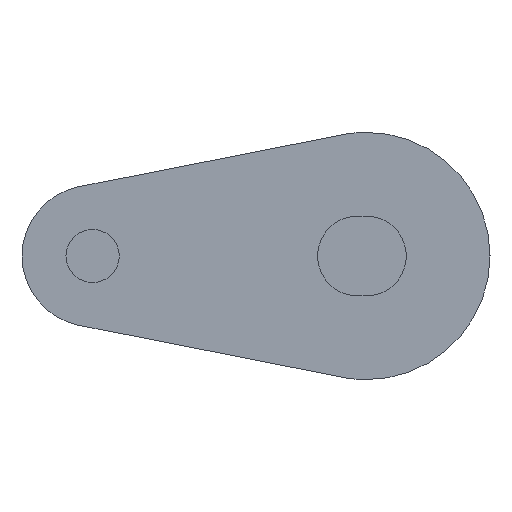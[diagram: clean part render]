
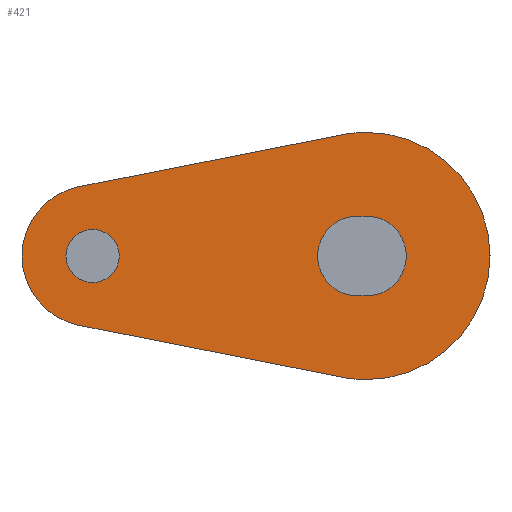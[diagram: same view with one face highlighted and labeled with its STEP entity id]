
A CAD part, left-side view. The second image highlights one B-rep face of the part: STEP entity #421.
In plain terms, the highlighted planar face has unit normal (-1, 0, 0).
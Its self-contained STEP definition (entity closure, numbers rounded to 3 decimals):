
#1 = VERTEX_POINT ( 'NONE', #95 ) ;
#7 = CARTESIAN_POINT ( 'NONE',  ( -529.5, 0., -7. ) ) ;
#12 = VERTEX_POINT ( 'NONE', #25 ) ;
#17 = CARTESIAN_POINT ( 'NONE',  ( -529.5, 0.5, 2.26 ) ) ;
#18 = CARTESIAN_POINT ( 'NONE',  ( -529.5, 0.5, -2.26 ) ) ;
#25 = CARTESIAN_POINT ( 'NONE',  ( -529.5, 1.355, -6.868 ) ) ;
#34 = VERTEX_POINT ( 'NONE', #53 ) ;
#53 = CARTESIAN_POINT ( 'NONE',  ( -529.5, 16.274, -3.924 ) ) ;
#55 = VERTEX_POINT ( 'NONE', #88 ) ;
#60 = VERTEX_POINT ( 'NONE', #83 ) ;
#72 = CARTESIAN_POINT ( 'NONE',  ( -529.5, 0., 7. ) ) ;
#76 = CARTESIAN_POINT ( 'NONE',  ( -529.5, 15.5, -1.51 ) ) ;
#83 = CARTESIAN_POINT ( 'NONE',  ( -529.5, 0., -2.26 ) ) ;
#88 = CARTESIAN_POINT ( 'NONE',  ( -529.5, 0., 2.26 ) ) ;
#89 = VERTEX_POINT ( 'NONE', #17 ) ;
#91 = VERTEX_POINT ( 'NONE', #18 ) ;
#92 = CARTESIAN_POINT ( 'NONE',  ( -529.5, 16.274, 3.924 ) ) ;
#95 = CARTESIAN_POINT ( 'NONE',  ( -529.5, 1.355, 6.868 ) ) ;
#96 = VERTEX_POINT ( 'NONE', #92 ) ;
#101 = VERTEX_POINT ( 'NONE', #7 ) ;
#105 = VERTEX_POINT ( 'NONE', #76 ) ;
#139 = VERTEX_POINT ( 'NONE', #72 ) ;
#141 = CARTESIAN_POINT ( 'NONE',  ( -529.5, 15.5, 1.51 ) ) ;
#146 = VERTEX_POINT ( 'NONE', #141 ) ;
#169 = PLANE ( 'NONE',  #1015 ) ;
#179 = CARTESIAN_POINT ( 'NONE',  ( -529.5, 15.5, 0. ) ) ;
#180 = DIRECTION ( 'NONE',  ( -1., 0., 0. ) ) ;
#181 = DIRECTION ( 'NONE',  ( 0., 0., -1. ) ) ;
#223 = CARTESIAN_POINT ( 'NONE',  ( -529.5, 15.5, 0. ) ) ;
#224 = DIRECTION ( 'NONE',  ( 1., 0., 0. ) ) ;
#225 = DIRECTION ( 'NONE',  ( 0., 0., -1. ) ) ;
#292 = DIRECTION ( 'NONE',  ( 1., 0., 0. ) ) ;
#293 = DIRECTION ( 'NONE',  ( 0., 0., -1. ) ) ;
#297 = CARTESIAN_POINT ( 'NONE',  ( -529.5, 0., 0. ) ) ;
#300 = DIRECTION ( 'NONE',  ( 1., 0., 0. ) ) ;
#301 = DIRECTION ( 'NONE',  ( 0., 0., -1. ) ) ;
#303 = DIRECTION ( 'NONE',  ( 1., 0., 0. ) ) ;
#304 = DIRECTION ( 'NONE',  ( 0., 0., -1. ) ) ;
#311 = CARTESIAN_POINT ( 'NONE',  ( -529.5, 0., 0. ) ) ;
#315 = DIRECTION ( 'NONE',  ( 0., -0.981, 0.194 ) ) ;
#317 = CARTESIAN_POINT ( 'NONE',  ( -529.5, 0., 0. ) ) ;
#322 = CARTESIAN_POINT ( 'NONE',  ( -529.5, 16.274, 3.924 ) ) ;
#332 = CARTESIAN_POINT ( 'NONE',  ( -529.5, 15.5, 0. ) ) ;
#333 = DIRECTION ( 'NONE',  ( 1., 0., 0. ) ) ;
#334 = DIRECTION ( 'NONE',  ( 0., 0., -1. ) ) ;
#335 = CARTESIAN_POINT ( 'NONE',  ( -529.5, 0., 0. ) ) ;
#339 = DIRECTION ( 'NONE',  ( 1., 0., 0. ) ) ;
#340 = DIRECTION ( 'NONE',  ( 0., 0., -1. ) ) ;
#341 = CARTESIAN_POINT ( 'NONE',  ( -529.5, 0.5, 2.26 ) ) ;
#343 = CARTESIAN_POINT ( 'NONE',  ( -529.5, 0.5, -2.26 ) ) ;
#344 = DIRECTION ( 'NONE',  ( 0., 1., 0. ) ) ;
#345 = CARTESIAN_POINT ( 'NONE',  ( -529.5, 1.355, -6.868 ) ) ;
#346 = DIRECTION ( 'NONE',  ( 0., 0.981, 0.194 ) ) ;
#351 = DIRECTION ( 'NONE',  ( 0., -1., 0. ) ) ;
#381 = CARTESIAN_POINT ( 'NONE',  ( -529.5, 0.5, 0. ) ) ;
#382 = DIRECTION ( 'NONE',  ( 1., 0., 0. ) ) ;
#383 = DIRECTION ( 'NONE',  ( 0., 0., -1. ) ) ;
#421 = ADVANCED_FACE ( 'NONE', ( #597, #602, #601 ), #169, .T. ) ;
#475 = EDGE_LOOP ( 'NONE', ( #782, #784, #479, #787 ) ) ;
#479 = ORIENTED_EDGE ( 'NONE', *, *, #908, .T. ) ;
#494 = ORIENTED_EDGE ( 'NONE', *, *, #898, .F. ) ;
#495 = ORIENTED_EDGE ( 'NONE', *, *, #887, .F. ) ;
#521 = ORIENTED_EDGE ( 'NONE', *, *, #896, .F. ) ;
#538 = ORIENTED_EDGE ( 'NONE', *, *, #973, .T. ) ;
#597 = FACE_BOUND ( 'NONE', #475, .T. ) ;
#601 = FACE_OUTER_BOUND ( 'NONE', #762, .T. ) ;
#602 = FACE_BOUND ( 'NONE', #761, .T. ) ;
#648 = LINE ( 'NONE', #322, #652 ) ;
#651 = CIRCLE ( 'NONE', #1040, 4. ) ;
#652 = VECTOR ( 'NONE', #315, 1000. ) ;
#662 = LINE ( 'NONE', #341, #689 ) ;
#664 = CIRCLE ( 'NONE', #1013, 7. ) ;
#667 = CIRCLE ( 'NONE', #1041, 7. ) ;
#670 = CIRCLE ( 'NONE', #1012, 7. ) ;
#677 = CIRCLE ( 'NONE', #993, 1.51 ) ;
#681 = CIRCLE ( 'NONE', #1027, 2.26 ) ;
#682 = LINE ( 'NONE', #345, #685 ) ;
#683 = LINE ( 'NONE', #343, #684 ) ;
#684 = VECTOR ( 'NONE', #344, 1000. ) ;
#685 = VECTOR ( 'NONE', #346, 1000. ) ;
#689 = VECTOR ( 'NONE', #351, 1000. ) ;
#696 = CIRCLE ( 'NONE', #998, 2.26 ) ;
#749 = CIRCLE ( 'NONE', #999, 1.51 ) ;
#761 = EDGE_LOOP ( 'NONE', ( #538, #791 ) ) ;
#762 = EDGE_LOOP ( 'NONE', ( #495, #786, #494, #521, #837, #788 ) ) ;
#782 = ORIENTED_EDGE ( 'NONE', *, *, #919, .T. ) ;
#784 = ORIENTED_EDGE ( 'NONE', *, *, #913, .T. ) ;
#786 = ORIENTED_EDGE ( 'NONE', *, *, #911, .F. ) ;
#787 = ORIENTED_EDGE ( 'NONE', *, *, #910, .T. ) ;
#788 = ORIENTED_EDGE ( 'NONE', *, *, #891, .F. ) ;
#791 = ORIENTED_EDGE ( 'NONE', *, *, #905, .T. ) ;
#837 = ORIENTED_EDGE ( 'NONE', *, *, #902, .F. ) ;
#887 = EDGE_CURVE ( 'NONE', #34, #96, #651, .T. ) ;
#891 = EDGE_CURVE ( 'NONE', #96, #1, #648, .T. ) ;
#896 = EDGE_CURVE ( 'NONE', #139, #101, #664, .T. ) ;
#898 = EDGE_CURVE ( 'NONE', #101, #12, #667, .T. ) ;
#902 = EDGE_CURVE ( 'NONE', #1, #139, #670, .T. ) ;
#905 = EDGE_CURVE ( 'NONE', #146, #105, #677, .T. ) ;
#908 = EDGE_CURVE ( 'NONE', #55, #60, #681, .T. ) ;
#910 = EDGE_CURVE ( 'NONE', #60, #91, #683, .T. ) ;
#911 = EDGE_CURVE ( 'NONE', #12, #34, #682, .T. ) ;
#913 = EDGE_CURVE ( 'NONE', #89, #55, #662, .T. ) ;
#919 = EDGE_CURVE ( 'NONE', #91, #89, #696, .T. ) ;
#973 = EDGE_CURVE ( 'NONE', #105, #146, #749, .T. ) ;
#977 = DIRECTION ( 'NONE',  ( 0., 0., -1. ) ) ;
#978 = DIRECTION ( 'NONE',  ( 1., 0., 0. ) ) ;
#985 = CARTESIAN_POINT ( 'NONE',  ( -529.5, 15.5, 0. ) ) ;
#993 = AXIS2_PLACEMENT_3D ( 'NONE', #332, #333, #334 ) ;
#998 = AXIS2_PLACEMENT_3D ( 'NONE', #381, #382, #383 ) ;
#999 = AXIS2_PLACEMENT_3D ( 'NONE', #985, #978, #977 ) ;
#1012 = AXIS2_PLACEMENT_3D ( 'NONE', #297, #300, #301 ) ;
#1013 = AXIS2_PLACEMENT_3D ( 'NONE', #317, #303, #304 ) ;
#1015 = AXIS2_PLACEMENT_3D ( 'NONE', #179, #180, #181 ) ;
#1027 = AXIS2_PLACEMENT_3D ( 'NONE', #335, #339, #340 ) ;
#1040 = AXIS2_PLACEMENT_3D ( 'NONE', #223, #224, #225 ) ;
#1041 = AXIS2_PLACEMENT_3D ( 'NONE', #311, #292, #293 ) ;
